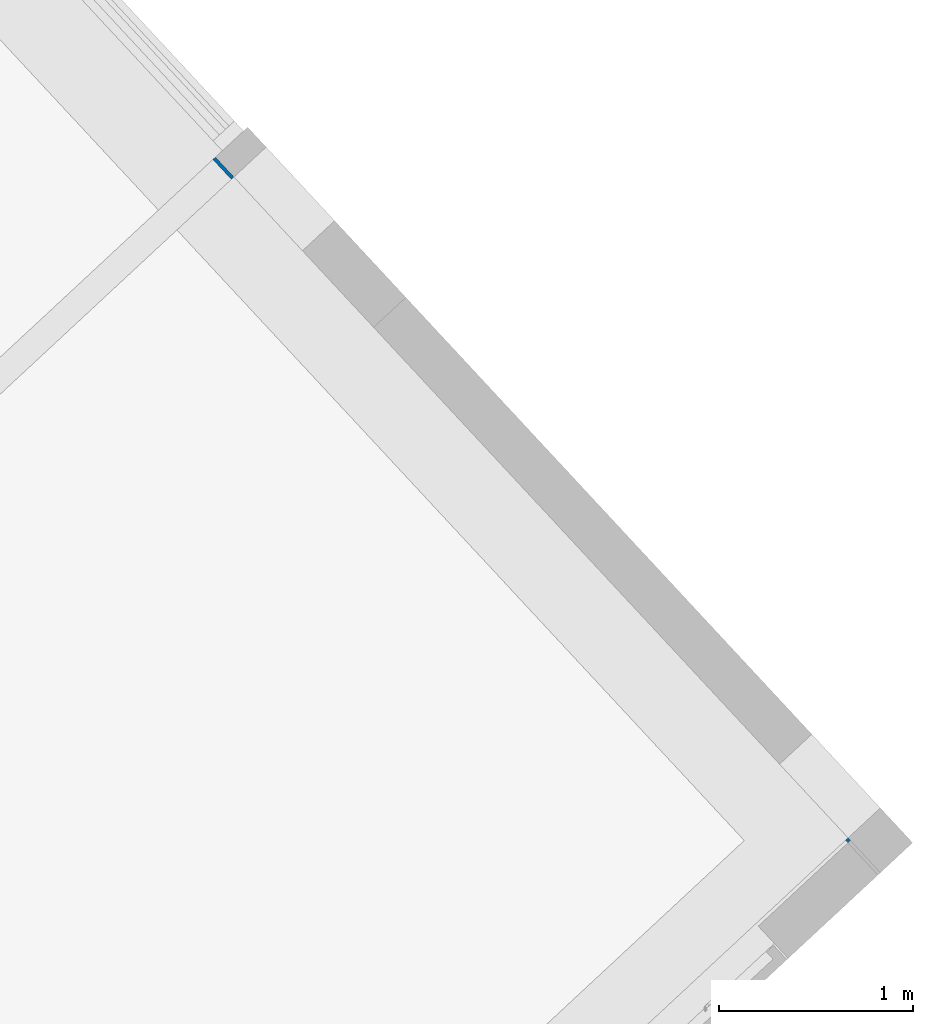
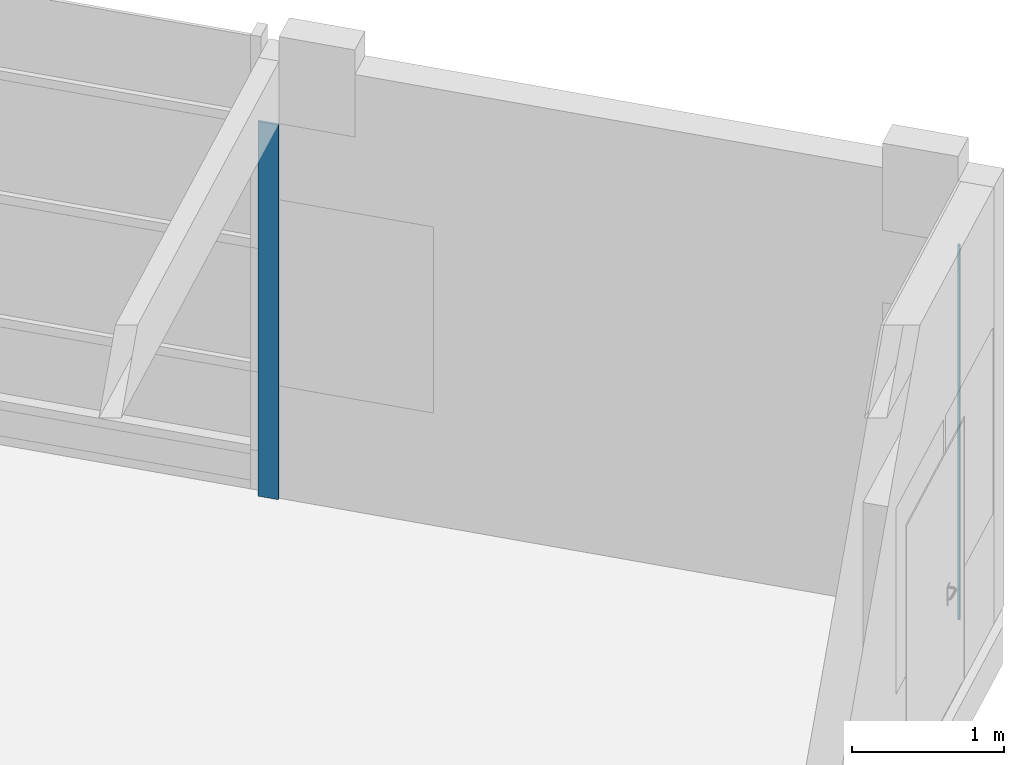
# One storey, part 1 of 7: 2 columns.
"""IFC2X3 building model written with IfcOpenShell, lengths in millimetres."""

from ifc_helpers import new_model, entity, si_unit, converted_unit, derived_unit, direction, frame, frame_2d, origin, origin_with_axes, place, context, subcontext, project, spatial, rectangle, extrude, source, transform, mapped, material, type_object, element, save


model = new_model("IFC2X3")

# Units and contexts
model_context = context("Model", 3, precision=0.01, world=origin(), true_north=direction((6.12323399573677e-17, 1.0)))
plan_context = context("Plan", 3, precision=1e-05, world=origin_with_axes())
body_context = subcontext(model_context, "Body", "Model", "MODEL_VIEW")
ifc_project = project(units=[converted_unit("PLANEANGLEUNIT", "DEGREE", entity("IfcPositiveLengthMeasure", 0.0174532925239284), si_unit("PLANEANGLEUNIT", "RADIAN"), dimensions=[0, 0, 0, 0, 0, 0, 0]), si_unit("AREAUNIT", "SQUARE_METRE"), si_unit("LENGTHUNIT", "METRE", prefix="MILLI"), si_unit("MASSUNIT", "GRAM", prefix="KILO"), si_unit("POWERUNIT", "WATT"), si_unit("PRESSUREUNIT", "PASCAL", prefix="KILO"), si_unit("FORCEUNIT", "NEWTON", prefix="KILO"), si_unit("ELECTRICVOLTAGEUNIT", "VOLT"), si_unit("ELECTRICCURRENTUNIT", "AMPERE"), si_unit("THERMODYNAMICTEMPERATUREUNIT", "DEGREE_CELSIUS"), si_unit("TIMEUNIT", "SECOND"), si_unit("VOLUMEUNIT", "CUBIC_METRE"), derived_unit("LINEARVELOCITYUNIT", [(si_unit("LENGTHUNIT", "METRE"), 1), (si_unit("TIMEUNIT", "SECOND"), -1)]), derived_unit("VOLUMETRICFLOWRATEUNIT", [(si_unit("VOLUMEUNIT", "CUBIC_METRE"), 1), (si_unit("TIMEUNIT", "SECOND"), -1)]), derived_unit("THERMALTRANSMITTANCEUNIT", [(si_unit("POWERUNIT", "WATT"), 1), (si_unit("THERMODYNAMICTEMPERATUREUNIT", "KELVIN"), -1), (si_unit("AREAUNIT", "SQUARE_METRE"), -1)]), derived_unit("SOUNDPRESSUREUNIT", [(si_unit("PRESSUREUNIT", "PASCAL"), 1)])], contexts=[model_context, plan_context])

# Site, building, storey
site_placement = place(None, frame((159880.25068742, 140851.808625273, 0.0), z_axis=(0.0, 0.0, 1.0), x_axis=(-0.680735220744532, 0.732529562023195, 0.0)))
site = spatial("IfcSite", under=ifc_project, at=site_placement, Name="Default", CompositionType="ELEMENT")
building_placement = place(site_placement, origin_with_axes())
building = spatial("IfcBuilding", under=site, at=building_placement, CompositionType="ELEMENT")
storey_placement = place(building_placement, frame((0.0, 0.0, 4900.0), z_axis=(0.0, 0.0, 1.0), x_axis=(1.0, 0.0, 0.0)))
storey = spatial("IfcBuildingStorey", under=building, at=storey_placement, Name="001-01", CompositionType="ELEMENT", Elevation=4900.0)

# Columns
ifc_material = material(Name="TIMBER/C30")
column_type_1 = type_object("IfcColumnType", Name="140*140:140*140", PredefinedType="COLUMN", material=ifc_material)
shared_shape_1 = source(origin(), body_context, "Body", "SweptSolid", [
    extrude(rectangle(XDim=18.000000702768, YDim=17.9999999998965, at=frame_2d((0.0, -1.68753899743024e-14), x_axis=(1.0, 0.0))), frame((48061.0000003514, 61.0, 4900.00000000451), z_axis=(0.0, 0.0, 1.0), x_axis=(-1.0, 0.0, 0.0)), (0.0, 0.0, 1.0), 3000.0),
])
column_1_placement = place(storey_placement, frame((0.0, 0.0, -4900.0), z_axis=(0.0, 0.0, 1.0), x_axis=(1.0, 0.0, 0.0)))
element("IfcColumn", 1, at=column_1_placement, inside=storey, type_object=column_type_1, material=ifc_material, Name="140*140:140*140", ObjectType="140*140:140*140", context=body_context, shape_type="MappedRepresentation", body=[
    mapped(shared_shape_1, transform((0.0, 0.0, 0.0), scale=1.0)),
])
column_type_2 = type_object("IfcColumnType", Name="140*140:140*140", PredefinedType="COLUMN", material=ifc_material)
shared_shape_2 = source(origin(), body_context, "Body", "SweptSolid", [
    extrude(rectangle(XDim=17.9999999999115, YDim=140.000000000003, at=frame_2d((1.02140518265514e-13, 0.0), x_axis=(1.0, 0.0))), frame((52800.0000007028, 61.0, 4900.00000000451), z_axis=(0.0, 0.0, 1.0), x_axis=(0.0, -1.0, 0.0)), (0.0, 0.0, 1.0), 3000.0),
])
column_2_placement = place(storey_placement, frame((0.0, 0.0, -4900.0), z_axis=(0.0, 0.0, 1.0), x_axis=(1.0, 0.0, 0.0)))
element("IfcColumn", 2, at=column_2_placement, inside=storey, type_object=column_type_2, material=ifc_material, Name="140*140:140*140", ObjectType="140*140:140*140", context=body_context, shape_type="MappedRepresentation", body=[
    mapped(shared_shape_2, transform((0.0, 0.0, 0.0), scale=1.0)),
])

save(model, "model.ifc")
